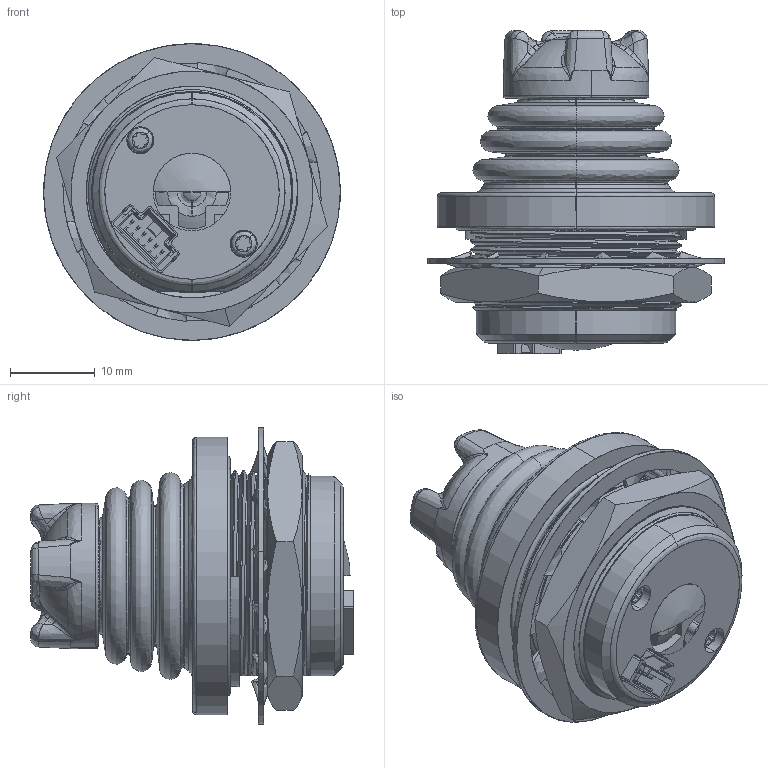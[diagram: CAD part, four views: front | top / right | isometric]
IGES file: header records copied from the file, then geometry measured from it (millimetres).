
Start section: SolidWorks IGES file using analytic representation for surfaces
Global section: file name: \\CH-DOCSTORE-1\Engineering\ME\Anthony\HS1T.IGS; native system: SolidWorks 2015; preprocessor: SolidWorks 2015; author: adolgonos; date: 150210.141621; units: inch
Bounding box: 35.05 x 38.15 x 35.05 mm (x, y, z)
Surface area: 15487.7 mm2 (no closed solid volume)
Topology: 0 solids, 0 shells, 1522 faces, 14340 edges, 14311 vertices
Faces by surface type: bspline 982, revolution 540
